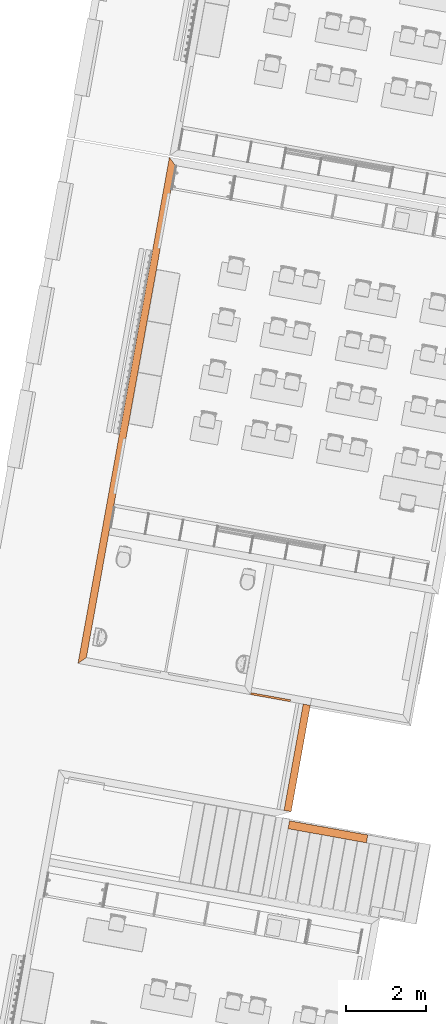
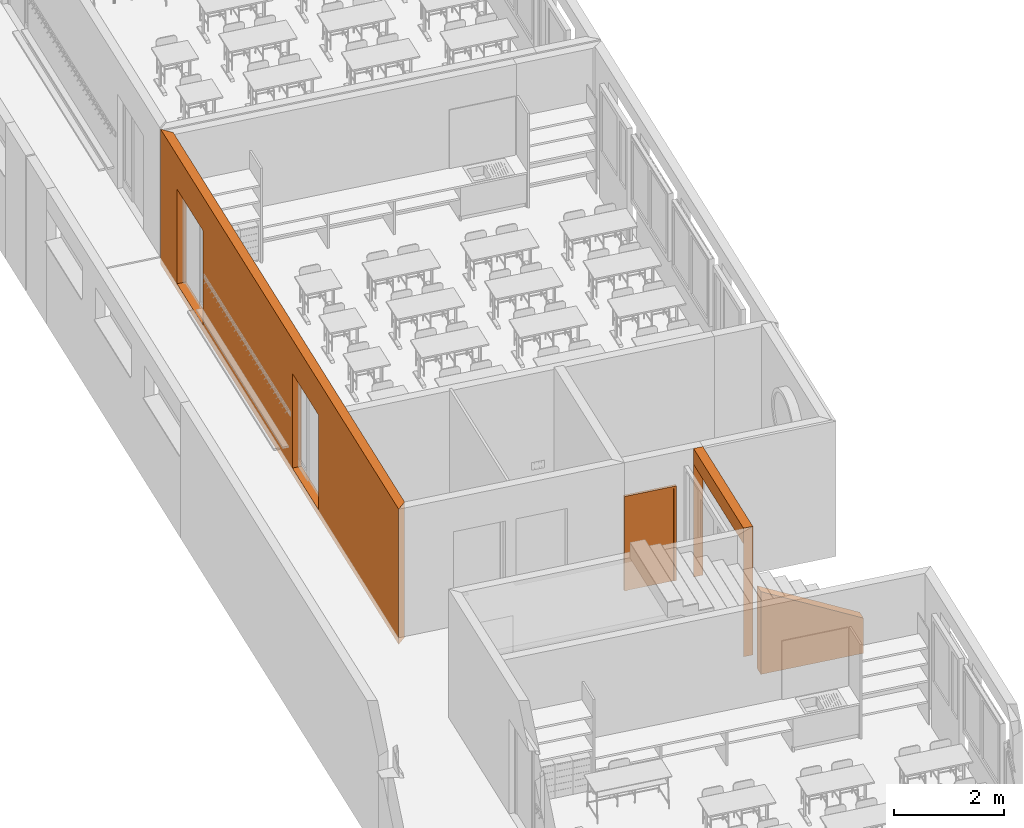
# One storey, part 60 of 79: 4 proxies.
"""IFC2X3 building model written with IfcOpenShell, lengths in metres."""

from ifc_helpers import new_model, entity, si_unit, converted_unit, derived_unit, money_unit, direction, frame, origin_with_axes, place, context, subcontext, project, spatial, polyline, outline, extrude, boolean, faceted_brep, material, type_object, element, save


model = new_model("IFC2X3")

# Units and contexts
model_context = context("Model", 3, precision=1e-05, world=origin_with_axes(), true_north=direction((0.0, 1.0)))
body_context = subcontext(model_context, "Body", "Model", "MODEL_VIEW")
ifc_project = project(units=[si_unit("LENGTHUNIT", "METRE"), si_unit("AREAUNIT", "SQUARE_METRE"), si_unit("VOLUMEUNIT", "CUBIC_METRE"), converted_unit("PLANEANGLEUNIT", "DEGREE", entity("IfcPlaneAngleMeasure", 0.0174532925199), si_unit("PLANEANGLEUNIT", "RADIAN"), dimensions=[0, 0, 0, 0, 0, 0, 0]), money_unit("CHF"), converted_unit("TIMEUNIT", "Year", entity("IfcTimeMeasure", 31556926.0), si_unit("TIMEUNIT", "SECOND"), dimensions=[0, 0, 1, 0, 0, 0, 0]), si_unit("MASSUNIT", "GRAM", prefix="KILO"), si_unit("THERMODYNAMICTEMPERATUREUNIT", "DEGREE_CELSIUS"), si_unit("LUMINOUSINTENSITYUNIT", "LUMEN"), si_unit("ENERGYUNIT", "JOULE", prefix="MEGA"), derived_unit("THERMALCONDUCTANCEUNIT", [(si_unit("POWERUNIT", "WATT"), 1), (si_unit("LENGTHUNIT", "METRE"), -1), (si_unit("THERMODYNAMICTEMPERATUREUNIT", "KELVIN"), -1)]), derived_unit("SPECIFICHEATCAPACITYUNIT", [(si_unit("ENERGYUNIT", "JOULE"), 1), (si_unit("MASSUNIT", "GRAM", prefix="KILO"), -1), (si_unit("THERMODYNAMICTEMPERATUREUNIT", "KELVIN"), -1)]), derived_unit("MASSDENSITYUNIT", [(si_unit("MASSUNIT", "GRAM", prefix="KILO"), 1), (si_unit("VOLUMEUNIT", "CUBIC_METRE"), -1)])], contexts=[model_context])

# Site, building, storey
site_placement = place(None, frame((0.0, 0.0, 0.0), z_axis=(0.0, 0.0, 1.0), x_axis=(-0.177771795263, -0.984071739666, 0.0)))
site = spatial("IfcSite", under=ifc_project, at=site_placement, Name="Site", CompositionType="ELEMENT")
building_placement = place(site_placement, origin_with_axes())
building = spatial("IfcBuilding", under=site, at=building_placement, Name="Bâtiment", CompositionType="ELEMENT")
storey_placement = place(building_placement, origin_with_axes())
storey = spatial("IfcBuildingStorey", under=building, at=storey_placement, Name="RDC", CompositionType="ELEMENT", Elevation=0.0)

# Proxies
ifc_material_1 = material(Name="_Agglos")
building_element_proxy_type_1 = type_object("IfcBuildingElementProxyType", Name="_Agglos 200", PredefinedType="NOTDEFINED")
proxy_1_placement = place(storey_placement, frame((144.410042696, -150.757149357, -0.15), z_axis=(0.0, 0.0, 1.0), x_axis=(0.0, 1.0, 0.0)))
element("IfcBuildingElementProxy", 1, at=proxy_1_placement, inside=storey, type_object=building_element_proxy_type_1, material=ifc_material_1, Name="M ext esc-dessous", context=body_context, shape_type="Brep", body=[
    faceted_brep([(4.14245600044e-08, 0.2, 0.0), (4.14245600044e-08, 0.2, 1.83688980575), (1.97933882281, 0.2, 0.781242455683), (1.97933882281, 0.2, 0.0), (-1.02666000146e-08, 0.0, 0.0), (-1.02666000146e-08, 0.0, 1.83688983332), (1.97933882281, 0.0, 0.781242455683), (1.97933882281, 0.0, 0.0)], [[[0, 1, 2, 3]], [[1, 0, 4, 5]], [[6, 2, 1, 5]], [[2, 6, 7, 3]], [[4, 0, 3, 7]], [[5, 4, 7, 6]]]),
])
ifc_material_2 = material(Name="_BA banché RAL9007")
building_element_proxy_type_2 = type_object("IfcBuildingElementProxyType", Name="_BA banché RAL9007 180", PredefinedType="NOTDEFINED")
proxy_2_placement = place(storey_placement, frame((141.294841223, -156.627150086, -0.15), z_axis=(0.0, 0.0, 1.0), x_axis=(-1.0, -1.02782532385e-07, 0.0)))
element("IfcBuildingElementProxy", 2, at=proxy_2_placement, inside=storey, type_object=building_element_proxy_type_2, material=ifc_material_2, Name="M refend", context=body_context, shape_type="CSG", body=[
    boolean("DIFFERENCE", boolean("DIFFERENCE", extrude(outline(polyline([(0.179999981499, -0.18), (12.6099999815, -0.18), (12.79, 0.0), (0.0, 0.0), (0.179999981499, -0.18)])), origin_with_axes(), (0.0, 0.0, 1.0), 3.0), faceted_brep([(11.9099999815, 0.0, 0.15), (10.5099999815, 0.0, 0.15), (10.5099999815, 0.0, 2.25), (11.9099999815, 0.0, 2.25), (11.9099999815, -0.18, 0.15), (10.5099999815, -0.18, 0.15), (10.5099999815, -0.18, 2.25), (11.9099999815, -0.18, 2.25)], [[[0, 1, 2, 3]], [[4, 5, 1, 0]], [[5, 6, 2, 1]], [[6, 7, 3, 2]], [[7, 4, 0, 3]], [[4, 7, 6, 5]]])), faceted_brep([(5.7099999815, 0.0, 0.15), (4.3099999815, 0.0, 0.15), (4.3099999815, 0.0, 2.25), (5.7099999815, 0.0, 2.25), (5.7099999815, -0.18, 0.15), (4.3099999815, -0.18, 0.15), (4.3099999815, -0.18, 2.25), (5.7099999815, -0.18, 2.25)], [[[0, 1, 2, 3]], [[4, 5, 1, 0]], [[5, 6, 2, 1]], [[6, 7, 3, 2]], [[7, 4, 0, 3]], [[4, 7, 6, 5]]])),
])
ifc_material_3 = material(Name="Matériau de construction IFC")
building_element_proxy_type_3 = type_object("IfcBuildingElementProxyType", Name="Porte 21", PredefinedType="NOTDEFINED")
proxy_3_placement = place(storey_placement, frame((141.294841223, -152.267150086, 0.0), z_axis=(0.0, 0.0, 1.0), x_axis=(0.0, 1.0, 0.0)))
element("IfcBuildingElementProxy", 3, at=proxy_3_placement, inside=storey, type_object=building_element_proxy_type_3, material=ifc_material_3, Name="34", context=body_context, shape_type="Brep", body=[
    faceted_brep([(0.95, 0.01, 0.0), (0.95, 0.0, 0.0), (0.95, 0.0, 2.05), (0.95, 0.01, 2.05), (0.962, 0.01, 0.0), (0.962, 0.05, 0.0), (1.0, 0.05, 0.0), (1.0, 0.0, 0.0), (1.0, 0.0, 2.05), (0.962, 0.01, 2.05), (1.0, 0.05, 2.05), (0.962, 0.05, 2.05)], [[[0, 1, 2, 3]], [[4, 5, 6, 7, 1, 0]], [[1, 7, 8, 2]], [[9, 3, 2, 8, 10, 11]], [[9, 4, 0, 3]], [[11, 5, 4, 9]], [[11, 10, 6, 5]], [[6, 10, 8, 7]]]),
    faceted_brep([(0.038, 0.01, 2.05), (0.038, 0.05, 2.05), (0.0, 0.05, 2.05), (0.0, 0.0, 2.05), (0.05, 0.0, 2.05), (0.05, 0.01, 2.05), (0.038, 0.01, 0.0), (0.038, 0.05, 0.0), (0.0, 0.05, 0.0), (0.0, 0.0, 0.0), (0.05, 0.0, 0.0), (0.05, 0.01, 0.0)], [[[0, 1, 2, 3, 4, 5]], [[0, 6, 7, 1]], [[7, 8, 2, 1]], [[2, 8, 9, 3]], [[3, 9, 10, 4]], [[5, 4, 10, 11]], [[5, 11, 6, 0]], [[6, 11, 10, 9, 8, 7]]]),
    faceted_brep([(0.962, 0.05, 2.062), (0.038, 0.05, 2.062), (0.038, 0.05, 2.05), (0.0, 0.05, 2.05), (0.0, 0.05, 2.1), (1.0, 0.05, 2.1), (1.0, 0.05, 2.05), (0.962, 0.05, 2.05), (0.962, 0.01, 2.062), (0.038, 0.01, 2.062), (0.038, 0.01, 2.05), (0.05, 0.01, 2.05), (0.05, 0.0, 2.05), (0.0, 0.0, 2.05), (0.0, 0.0, 2.1), (1.0, 0.0, 2.1), (1.0, 0.0, 2.05), (0.962, 0.01, 2.05), (0.95, 0.0, 2.05), (0.95, 0.01, 2.05)], [[[0, 1, 2, 3, 4, 5, 6, 7]], [[0, 8, 9, 1]], [[1, 9, 10, 2]], [[10, 11, 12, 13, 3, 2]], [[4, 3, 13, 14]], [[5, 4, 14, 15]], [[6, 5, 15, 16]], [[17, 7, 6, 16, 18, 19]], [[7, 17, 8, 0]], [[10, 9, 8, 17, 19, 11]], [[19, 18, 12, 11]], [[12, 18, 16, 15, 14, 13]]]),
    faceted_brep([(0.038, 0.04, 0.0), (0.962, 0.04, 0.0), (0.962, 0.01, 0.0), (0.038, 0.01, 0.0), (0.038, 0.04, 2.062), (0.962, 0.04, 2.062), (0.962, 0.01, 2.062), (0.038, 0.01, 2.062)], [[[0, 1, 2, 3]], [[0, 4, 5, 1]], [[1, 5, 6, 2]], [[3, 2, 6, 7]], [[4, 0, 3, 7]], [[5, 4, 7, 6]]]),
])
building_element_proxy_type_4 = type_object("IfcBuildingElementProxyType", Name="_M ext 18 +18 gris 360", PredefinedType="NOTDEFINED")
proxy_4_placement = place(storey_placement, frame((144.159841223, -150.757149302, 0.0), z_axis=(0.0, 0.0, 1.0), x_axis=(-1.0, 2.58814252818e-07, 0.0)))
element("IfcBuildingElementProxy", 4, at=proxy_4_placement, inside=storey, type_object=building_element_proxy_type_4, material=ifc_material_2, Name="M ext sortie-cour", context=body_context, shape_type="CSG", body=[
    boolean("DIFFERENCE", extrude(outline(polyline([(0.18, 0.0), (2.865, 0.0), (2.86499995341, 0.18), (0.179999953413, 0.18), (0.18, 0.0)])), origin_with_axes(), (0.0, 0.0, 1.0), 2.85), faceted_brep([(2.86379990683, 0.0, 0.0), (2.86379990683, 0.0, 2.5), (0.18129990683, 0.0, 2.5), (0.18129990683, 0.0, 0.0), (2.86379990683, 0.18, 0.0), (2.86379990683, 0.18, 2.5), (0.18129990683, 0.18, 2.5), (0.18129990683, 0.18, 0.0)], [[[0, 1, 2, 3]], [[1, 0, 4, 5]], [[2, 1, 5, 6]], [[3, 2, 6, 7]], [[4, 0, 3, 7]], [[5, 4, 7, 6]]])),
])

save(model, "model.ifc")
